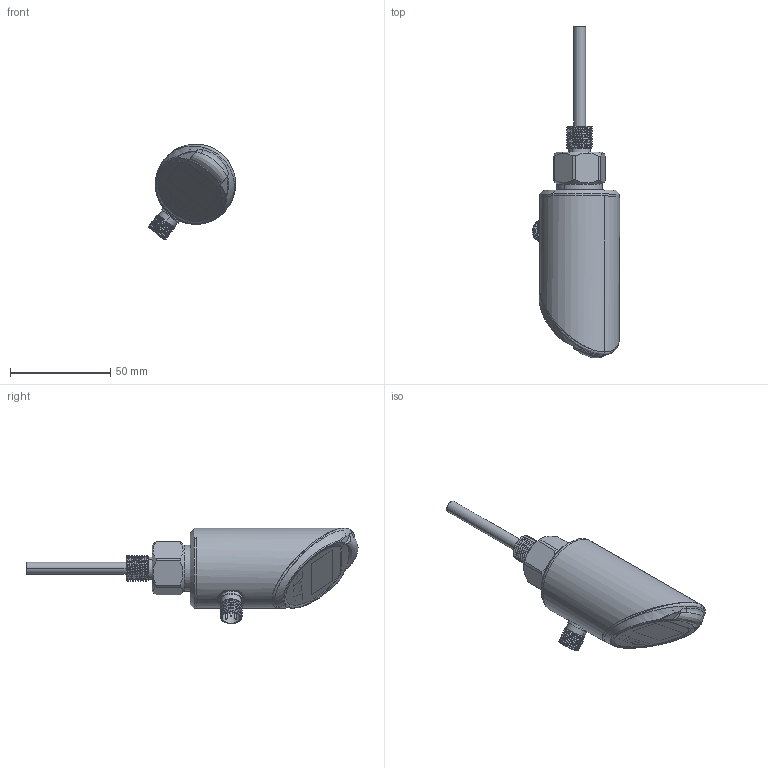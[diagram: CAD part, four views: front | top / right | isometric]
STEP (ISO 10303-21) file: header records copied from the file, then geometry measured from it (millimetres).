
FILE_DESCRIPTION (( 'STEP AP203' ), '1' );
FILE_NAME ('勤俋TXW蚾饜极.STEP', '2025-12-25T13:10:05', ( '' ), ( '' ), 'SwSTEP 2.0', 'SolidWorks 2022', '' );
FILE_SCHEMA (( 'CONFIG_CONTROL_DESIGN' ));
Length unit declared in the file: millimetre
Products named in the file (6): 勤俋TXW蚾饜极; PXW爾諉遠; 訇醱桶芛; 对外二分外牙PXW压力基座; 恲僅抻芛奪眻噤6; 对外二分外牙PXW装配体
Assembly tree (5 placements, depth 3):
  勤俋TXW蚾饜极
    恲僅抻芛奪眻噤6
    对外二分外牙PXW装配体
      对外二分外牙PXW压力基座
      訇醱桶芛
      PXW爾諉遠
Bounding box: 43.53 x 165.98 x 47.79 mm (x, y, z)
Volume: 84190.3 mm3; surface area: 34363.3 mm2
Topology: 7 solids, 8 shells, 243 faces, 576 edges, 377 vertices
Faces by surface type: cylinder 108, plane 73, bspline 48, cone 10, torus 4
Entity records: 19475 total; most frequent: CARTESIAN_POINT 13766, ORIENTED_EDGE 1150, DIRECTION 893, EDGE_CURVE 575, VERTEX_POINT 377, AXIS2_PLACEMENT_3D 354, EDGE_LOOP 278, ADVANCED_FACE 243
